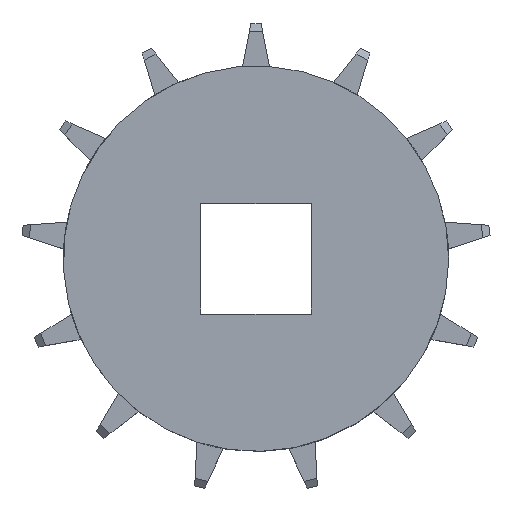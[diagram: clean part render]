
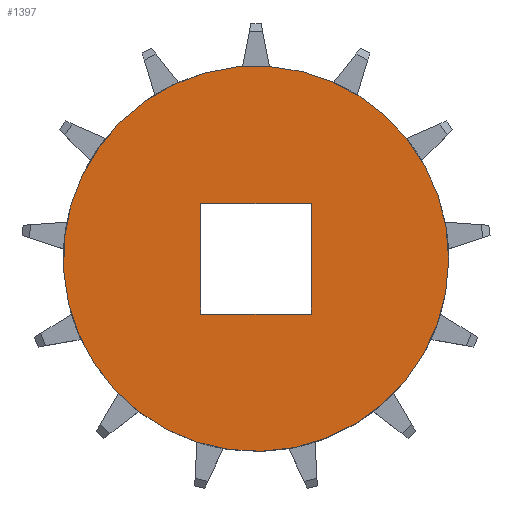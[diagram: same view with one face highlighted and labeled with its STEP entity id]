
A CAD part, top view. The second image highlights one B-rep face of the part: STEP entity #1397.
In plain terms, the highlighted planar face has unit normal (0, 0, 1).
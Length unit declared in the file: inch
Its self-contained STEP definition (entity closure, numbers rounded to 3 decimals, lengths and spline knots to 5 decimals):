
#2=CARTESIAN_POINT('',(0.,0.,0.));
#3=DIRECTION('',(0.,0.,1.));
#4=DIRECTION('',(0.663,0.749,0.));
#5=AXIS2_PLACEMENT_3D('',#2,#3,#4);
#7=DIRECTION('',(0.,-1.,0.));
#8=VECTOR('',#7,1.5);
#9=CARTESIAN_POINT('',(-0.75,0.75,0.));
#10=LINE('',#9,#8);
#11=DIRECTION('',(1.,0.,0.));
#12=VECTOR('',#11,1.5);
#13=CARTESIAN_POINT('',(-0.75,-0.75,0.));
#14=LINE('',#13,#12);
#15=DIRECTION('',(0.,1.,0.));
#16=VECTOR('',#15,1.5);
#17=CARTESIAN_POINT('',(0.75,-0.75,0.));
#18=LINE('',#17,#16);
#19=DIRECTION('',(-1.,0.,0.));
#20=VECTOR('',#19,1.5);
#21=CARTESIAN_POINT('',(0.75,0.75,0.));
#22=LINE('',#21,#20);
#239=CARTESIAN_POINT('',(0.,0.,0.));
#240=DIRECTION('',(0.,0.,1.));
#241=DIRECTION('',(0.239,0.971,0.));
#242=AXIS2_PLACEMENT_3D('',#239,#240,#241);
#1048=CARTESIAN_POINT('',(-0.75,0.75,0.));
#1049=VERTEX_POINT('',#1048);
#1050=CARTESIAN_POINT('',(-0.75,-0.75,0.));
#1051=VERTEX_POINT('',#1050);
#1052=CARTESIAN_POINT('',(0.75,-0.75,0.));
#1053=VERTEX_POINT('',#1052);
#1054=CARTESIAN_POINT('',(0.75,0.75,0.));
#1055=VERTEX_POINT('',#1054);
#1065=CARTESIAN_POINT('',(0.62527,2.53681,0.));
#1067=VERTEX_POINT('',#1065);
#1069=CARTESIAN_POINT('',(1.73256,1.95565,0.));
#1071=VERTEX_POINT('',#1069);
#1376=CARTESIAN_POINT('',(0.,0.,0.));
#1377=DIRECTION('',(0.,0.,1.));
#1378=DIRECTION('',(1.,0.,0.));
#1379=AXIS2_PLACEMENT_3D('',#1376,#1377,#1378);
#1380=PLANE('',#1379);
#1382=ORIENTED_EDGE('',*,*,#1381,.F.);
#1384=ORIENTED_EDGE('',*,*,#1383,.F.);
#1385=EDGE_LOOP('',(#1382,#1384));
#1386=FACE_OUTER_BOUND('',#1385,.F.);
#1388=ORIENTED_EDGE('',*,*,#1387,.T.);
#1390=ORIENTED_EDGE('',*,*,#1389,.T.);
#1392=ORIENTED_EDGE('',*,*,#1391,.T.);
#1394=ORIENTED_EDGE('',*,*,#1393,.T.);
#1395=EDGE_LOOP('',(#1388,#1390,#1392,#1394));
#1396=FACE_BOUND('',#1395,.F.);
#1397=ADVANCED_FACE('',(#1386,#1396),#1380,.T.);
#6=CIRCLE('',#5,2.61273);
#243=CIRCLE('',#242,2.61273);
#1381=EDGE_CURVE('',#1067,#1071,#243,.T.);
#1383=EDGE_CURVE('',#1071,#1067,#6,.T.);
#1387=EDGE_CURVE('',#1049,#1051,#10,.T.);
#1389=EDGE_CURVE('',#1051,#1053,#14,.T.);
#1391=EDGE_CURVE('',#1053,#1055,#18,.T.);
#1393=EDGE_CURVE('',#1055,#1049,#22,.T.);
